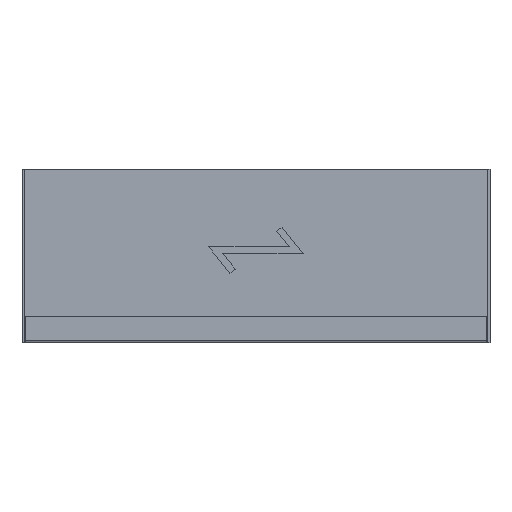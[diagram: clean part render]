
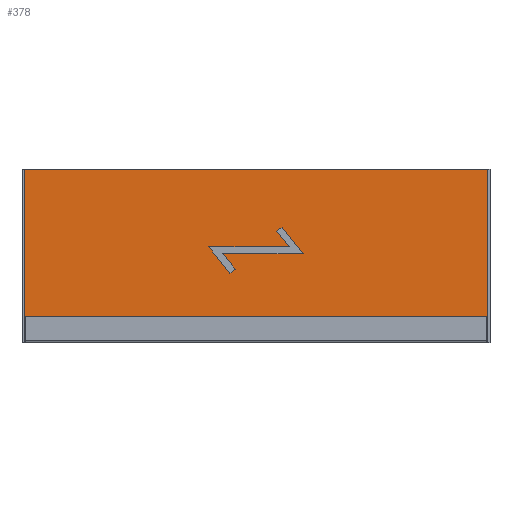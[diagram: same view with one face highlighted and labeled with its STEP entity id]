
A CAD part, top view. The second image highlights one B-rep face of the part: STEP entity #378.
In plain terms, the highlighted planar face has unit normal (0, 0, 1) as drawn and (0, 1, 0) by its records, which use the part's own axes.
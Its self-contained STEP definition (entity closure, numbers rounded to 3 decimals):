
#11 = CARTESIAN_POINT ( 'NONE',  ( -121.5, 25., 347. ) ) ;
#15 = VERTEX_POINT ( 'NONE', #1602 ) ;
#19 = VERTEX_POINT ( 'NONE', #655 ) ;
#34 = LINE ( 'NONE', #659, #1824 ) ;
#106 = ORIENTED_EDGE ( 'NONE', *, *, #159, .F. ) ;
#114 = DIRECTION ( 'NONE',  ( 0., 0., -1. ) ) ;
#133 = CARTESIAN_POINT ( 'NONE',  ( 34.35, 25., 38.903 ) ) ;
#137 = LINE ( 'NONE', #1236, #662 ) ;
#145 = AXIS2_PLACEMENT_3D ( 'NONE', #299, #439, #114 ) ;
#156 = VECTOR ( 'NONE', #1904, 1000. ) ;
#159 = EDGE_CURVE ( 'NONE', #1818, #534, #411, .T. ) ;
#196 = EDGE_CURVE ( 'NONE', #15, #1818, #1634, .T. ) ;
#206 = VERTEX_POINT ( 'NONE', #1323 ) ;
#216 = VERTEX_POINT ( 'NONE', #1790 ) ;
#266 = ORIENTED_EDGE ( 'NONE', *, *, #1693, .F. ) ;
#281 = FACE_BOUND ( 'NONE', #1312, .T. ) ;
#284 = ORIENTED_EDGE ( 'NONE', *, *, #196, .F. ) ;
#299 = CARTESIAN_POINT ( 'NONE',  ( 0., 25., 0. ) ) ;
#314 = EDGE_LOOP ( 'NONE', ( #1502, #1435, #1362, #1317 ) ) ;
#317 = EDGE_CURVE ( 'NONE', #459, #15, #582, .T. ) ;
#337 = VECTOR ( 'NONE', #711, 1000. ) ;
#347 = CARTESIAN_POINT ( 'NONE',  ( 121.5, 25., 347. ) ) ;
#371 = VECTOR ( 'NONE', #1830, 1000. ) ;
#378 = ADVANCED_FACE ( 'NONE', ( #1706, #281 ), #1073, .F. ) ;
#411 = LINE ( 'NONE', #1810, #1907 ) ;
#412 = VECTOR ( 'NONE', #567, 1000. ) ;
#430 = DIRECTION ( 'NONE',  ( -0.625, 0., -0.781 ) ) ;
#439 = DIRECTION ( 'NONE',  ( 0., -1., 0. ) ) ;
#459 = VERTEX_POINT ( 'NONE', #1531 ) ;
#470 = CARTESIAN_POINT ( 'NONE',  ( -34.35, 25., -38.903 ) ) ;
#498 = DIRECTION ( 'NONE',  ( -0.781, 0., 0.625 ) ) ;
#509 = LINE ( 'NONE', #347, #156 ) ;
#530 = CARTESIAN_POINT ( 'NONE',  ( -5., 25., -49.592 ) ) ;
#534 = VERTEX_POINT ( 'NONE', #963 ) ;
#536 = EDGE_CURVE ( 'NONE', #1338, #216, #821, .T. ) ;
#567 = DIRECTION ( 'NONE',  ( -0.781, 0., 0.625 ) ) ;
#578 = ORIENTED_EDGE ( 'NONE', *, *, #868, .T. ) ;
#579 = LINE ( 'NONE', #1710, #371 ) ;
#582 = LINE ( 'NONE', #133, #1022 ) ;
#630 = DIRECTION ( 'NONE',  ( 0., 0., 1. ) ) ;
#655 = CARTESIAN_POINT ( 'NONE',  ( -5., 25., 70.408 ) ) ;
#659 = CARTESIAN_POINT ( 'NONE',  ( 3.125, 25., 63.903 ) ) ;
#662 = VECTOR ( 'NONE', #1541, 1000. ) ;
#689 = CARTESIAN_POINT ( 'NONE',  ( -3.125, 25., 56.097 ) ) ;
#700 = ORIENTED_EDGE ( 'NONE', *, *, #965, .F. ) ;
#711 = DIRECTION ( 'NONE',  ( -0.781, 0., 0.625 ) ) ;
#721 = EDGE_CURVE ( 'NONE', #1203, #819, #1632, .T. ) ;
#755 = CARTESIAN_POINT ( 'NONE',  ( -121.5, 25., -347. ) ) ;
#806 = LINE ( 'NONE', #470, #1267 ) ;
#819 = VERTEX_POINT ( 'NONE', #1166 ) ;
#821 = LINE ( 'NONE', #1739, #1913 ) ;
#837 = VECTOR ( 'NONE', #630, 1000. ) ;
#865 = DIRECTION ( 'NONE',  ( 0., 0., -1. ) ) ;
#868 = EDGE_CURVE ( 'NONE', #19, #1338, #579, .T. ) ;
#928 = EDGE_CURVE ( 'NONE', #206, #1473, #137, .T. ) ;
#963 = CARTESIAN_POINT ( 'NONE',  ( 5., 25., -70.408 ) ) ;
#965 = EDGE_CURVE ( 'NONE', #534, #1009, #1518, .T. ) ;
#983 = CARTESIAN_POINT ( 'NONE',  ( -121.5, 25., 347. ) ) ;
#1009 = VERTEX_POINT ( 'NONE', #1217 ) ;
#1022 = VECTOR ( 'NONE', #430, 1000. ) ;
#1073 = PLANE ( 'NONE',  #145 ) ;
#1076 = LINE ( 'NONE', #11, #837 ) ;
#1166 = CARTESIAN_POINT ( 'NONE',  ( 121.5, 25., 347. ) ) ;
#1190 = ORIENTED_EDGE ( 'NONE', *, *, #536, .T. ) ;
#1203 = VERTEX_POINT ( 'NONE', #1917 ) ;
#1217 = CARTESIAN_POINT ( 'NONE',  ( -34.35, 25., -38.903 ) ) ;
#1236 = CARTESIAN_POINT ( 'NONE',  ( -121.5, 25., -347. ) ) ;
#1267 = VECTOR ( 'NONE', #1743, 1000. ) ;
#1285 = CARTESIAN_POINT ( 'NONE',  ( 5., 25., 49.592 ) ) ;
#1312 = EDGE_LOOP ( 'NONE', ( #1190, #266, #700, #106, #284, #1876, #1805, #578 ) ) ;
#1317 = ORIENTED_EDGE ( 'NONE', *, *, #721, .T. ) ;
#1323 = CARTESIAN_POINT ( 'NONE',  ( 121.5, 25., -347. ) ) ;
#1329 = VECTOR ( 'NONE', #1463, 1000. ) ;
#1338 = VERTEX_POINT ( 'NONE', #530 ) ;
#1354 = CARTESIAN_POINT ( 'NONE',  ( -3.125, 25., -63.903 ) ) ;
#1362 = ORIENTED_EDGE ( 'NONE', *, *, #1735, .T. ) ;
#1435 = ORIENTED_EDGE ( 'NONE', *, *, #928, .T. ) ;
#1463 = DIRECTION ( 'NONE',  ( 1., 0., 0. ) ) ;
#1473 = VERTEX_POINT ( 'NONE', #755 ) ;
#1502 = ORIENTED_EDGE ( 'NONE', *, *, #1823, .T. ) ;
#1518 = LINE ( 'NONE', #1354, #412 ) ;
#1531 = CARTESIAN_POINT ( 'NONE',  ( 34.35, 25., 38.903 ) ) ;
#1541 = DIRECTION ( 'NONE',  ( -1., 0., 0. ) ) ;
#1602 = CARTESIAN_POINT ( 'NONE',  ( 28.1, 25., 31.097 ) ) ;
#1632 = LINE ( 'NONE', #983, #1329 ) ;
#1634 = LINE ( 'NONE', #689, #337 ) ;
#1693 = EDGE_CURVE ( 'NONE', #1009, #216, #806, .T. ) ;
#1706 = FACE_OUTER_BOUND ( 'NONE', #314, .T. ) ;
#1710 = CARTESIAN_POINT ( 'NONE',  ( -5., 25., -60. ) ) ;
#1735 = EDGE_CURVE ( 'NONE', #1473, #1203, #1076, .T. ) ;
#1739 = CARTESIAN_POINT ( 'NONE',  ( 3.125, 25., -56.097 ) ) ;
#1743 = DIRECTION ( 'NONE',  ( 0.625, 0., 0.781 ) ) ;
#1790 = CARTESIAN_POINT ( 'NONE',  ( -28.1, 25., -31.097 ) ) ;
#1805 = ORIENTED_EDGE ( 'NONE', *, *, #1836, .T. ) ;
#1810 = CARTESIAN_POINT ( 'NONE',  ( 5., 25., -60. ) ) ;
#1818 = VERTEX_POINT ( 'NONE', #1285 ) ;
#1823 = EDGE_CURVE ( 'NONE', #819, #206, #509, .T. ) ;
#1824 = VECTOR ( 'NONE', #498, 1000. ) ;
#1830 = DIRECTION ( 'NONE',  ( 0., 0., -1. ) ) ;
#1836 = EDGE_CURVE ( 'NONE', #459, #19, #34, .T. ) ;
#1876 = ORIENTED_EDGE ( 'NONE', *, *, #317, .F. ) ;
#1904 = DIRECTION ( 'NONE',  ( 0., 0., -1. ) ) ;
#1907 = VECTOR ( 'NONE', #865, 1000. ) ;
#1911 = DIRECTION ( 'NONE',  ( -0.781, 0., 0.625 ) ) ;
#1913 = VECTOR ( 'NONE', #1911, 1000. ) ;
#1917 = CARTESIAN_POINT ( 'NONE',  ( -121.5, 25., 347. ) ) ;
